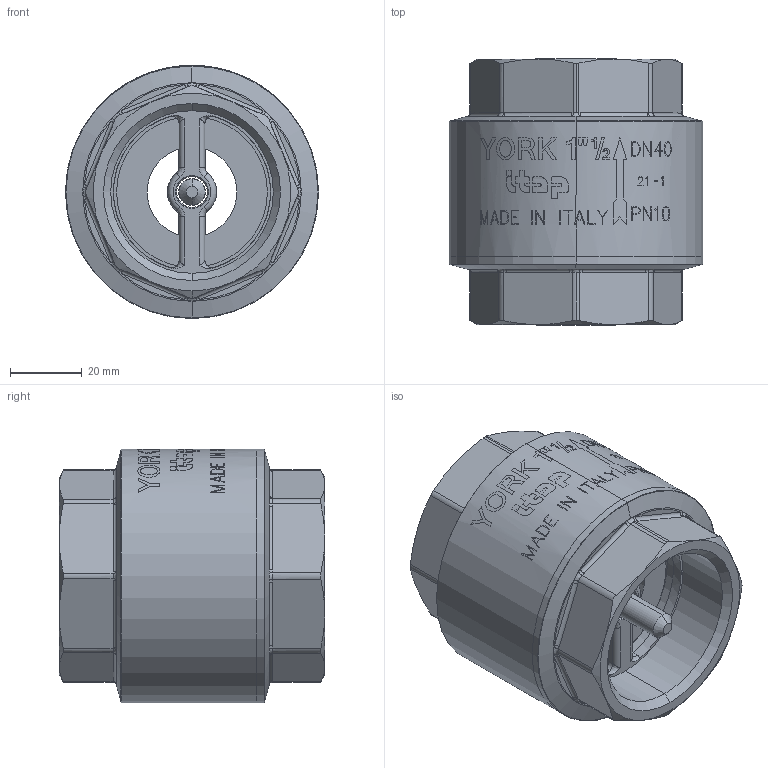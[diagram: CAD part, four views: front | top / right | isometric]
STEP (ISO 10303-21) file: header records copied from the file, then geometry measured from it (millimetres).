
FILE_DESCRIPTION (( 'STEP AP203' ), '1' );
FILE_NAME ('1030112.step', '2020-09-01T13:19:01', ( '' ), ( '' ), 'SwSTEP 2.0', 'SolidWorks 2018', '' );
FILE_SCHEMA (( 'CONFIG_CONTROL_DESIGN' ));
Length unit declared in the file: millimetre
Products named in the file (1): 1030112
Bounding box: 70.5 x 73.98 x 70.5 mm (x, y, z)
Surface area: 37386.4 mm2 (no closed solid volume)
Topology: 0 solids, 8 shells, 302 faces, 1238 edges, 990 vertices
Faces by surface type: cylinder 113, bspline 80, plane 49, cone 38, torus 22
Entity records: 17831 total; most frequent: CARTESIAN_POINT 8500, ORIENTED_EDGE 2396, DIRECTION 1352, EDGE_CURVE 1238, VERTEX_POINT 990, B_SPLINE_CURVE_WITH_KNOTS 658, AXIS2_PLACEMENT_3D 557, EDGE_LOOP 359
